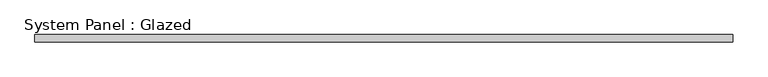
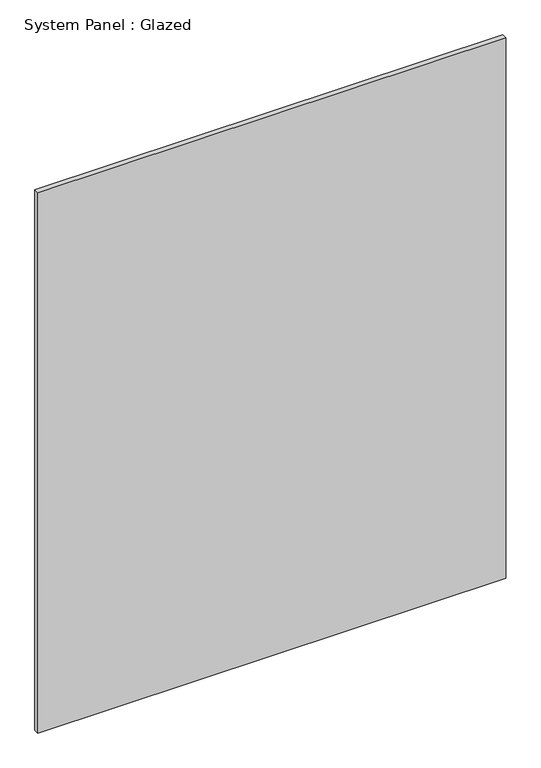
"""IFC4 building model written with IfcOpenShell, lengths in millimetres: plate geometry, System Panel : Glazed."""

from ifc_helpers import new_model, si_unit, origin, origin_with_axes, place, context, project, spatial, polyline, outline, extrude, source, transform, mapped, element, save


def system_panel_glazed_057324e0(model_context):
    return source(origin(), model_context, "Body", "SweptSolid", [
        extrude(outline(polyline([(1222.3750001, 19.05), (-1222.3750001, 19.05), (-1222.3750001, 44.45), (1222.3750001, 44.45), (1222.3750001, 19.05)])), origin_with_axes(), (0.0, 0.0, 1.0), 2984.5),
    ])


if __name__ == "__main__":
    model = new_model("IFC4")
    model_context = context("Model", 3, world=origin())
    ifc_project = project(units=[si_unit("LENGTHUNIT", "METRE", prefix="MILLI")], contexts=[model_context])
    site = spatial("IfcSite", under=ifc_project)
    building = spatial("IfcBuilding", under=site)
    placement = place(None, origin())
    system_panel_glazed_shape = system_panel_glazed_057324e0(model_context)
    element("IfcPlate", 1, ObjectType="System Panel : Glazed", at=placement, inside=building, context=model_context, shape_type="MappedRepresentation", body=[
        mapped(system_panel_glazed_shape, transform((0.0, 0.0, 0.0), x_axis=(1.0, 0.0, 0.0), y_axis=(0.0, 1.0, 0.0), z_axis=(0.0, 0.0, 1.0))),
    ])
    save(model, "model.ifc")
